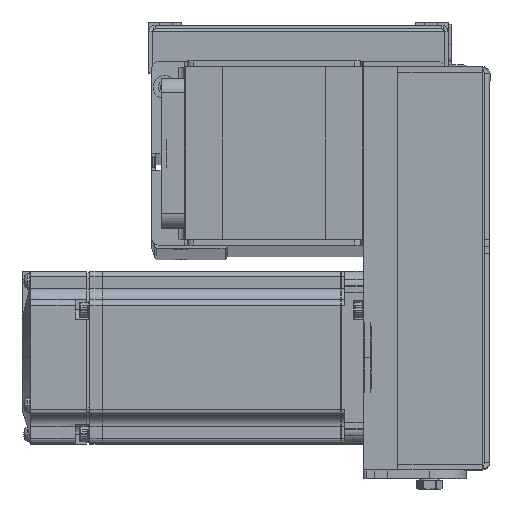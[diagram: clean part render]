
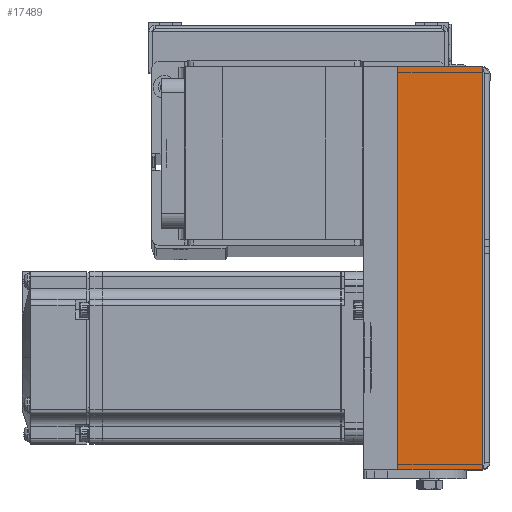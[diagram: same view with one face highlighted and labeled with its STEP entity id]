
A CAD part, top view. The second image highlights one B-rep face of the part: STEP entity #17489.
In plain terms, the highlighted planar face has unit normal (0, 0, 1).
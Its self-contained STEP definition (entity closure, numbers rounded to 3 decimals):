
#661 = DIRECTION ( 'NONE',  ( 0., 1., 0. ) ) ;
#1764 = EDGE_CURVE ( 'NONE', #44481, #27473, #37324, .T. ) ;
#3243 = EDGE_LOOP ( 'NONE', ( #32959, #25092, #5554, #36700 ) ) ;
#3722 = CARTESIAN_POINT ( 'NONE',  ( 70., -29.5, 31. ) ) ;
#4388 = EDGE_CURVE ( 'NONE', #11906, #27473, #45961, .T. ) ;
#5278 = PLANE ( 'NONE',  #52783 ) ;
#5554 = ORIENTED_EDGE ( 'NONE', *, *, #4388, .T. ) ;
#9821 = DIRECTION ( 'NONE',  ( 0., -1., 0. ) ) ;
#10850 = VECTOR ( 'NONE', #36240, 1000. ) ;
#11906 = VERTEX_POINT ( 'NONE', #24100 ) ;
#13843 = FACE_OUTER_BOUND ( 'NONE', #3243, .T. ) ;
#15177 = CARTESIAN_POINT ( 'NONE',  ( -70., -29.5, 31. ) ) ;
#17275 = CARTESIAN_POINT ( 'NONE',  ( -70., -29.5, 31. ) ) ;
#17327 = CARTESIAN_POINT ( 'NONE',  ( 0., -30., 31. ) ) ;
#17489 = ADVANCED_FACE ( 'NONE', ( #13843 ), #5278, .F. ) ;
#17597 = DIRECTION ( 'NONE',  ( 0., 0., -1. ) ) ;
#18197 = VECTOR ( 'NONE', #31344, 1000. ) ;
#18886 = VERTEX_POINT ( 'NONE', #21809 ) ;
#19292 = LINE ( 'NONE', #3722, #18197 ) ;
#20815 = CARTESIAN_POINT ( 'NONE',  ( 0., 0., 31. ) ) ;
#21809 = CARTESIAN_POINT ( 'NONE',  ( 70., -29.5, 31. ) ) ;
#24100 = CARTESIAN_POINT ( 'NONE',  ( 70., 0., 31. ) ) ;
#25092 = ORIENTED_EDGE ( 'NONE', *, *, #33172, .T. ) ;
#27473 = VERTEX_POINT ( 'NONE', #28547 ) ;
#28547 = CARTESIAN_POINT ( 'NONE',  ( -70., 0., 31. ) ) ;
#31344 = DIRECTION ( 'NONE',  ( 0., 1., 0. ) ) ;
#31726 = LINE ( 'NONE', #48033, #10850 ) ;
#32659 = VECTOR ( 'NONE', #47026, 1000. ) ;
#32959 = ORIENTED_EDGE ( 'NONE', *, *, #50888, .F. ) ;
#33172 = EDGE_CURVE ( 'NONE', #18886, #11906, #19292, .T. ) ;
#36240 = DIRECTION ( 'NONE',  ( -1., 0., 0. ) ) ;
#36700 = ORIENTED_EDGE ( 'NONE', *, *, #1764, .F. ) ;
#37324 = LINE ( 'NONE', #17275, #47712 ) ;
#44481 = VERTEX_POINT ( 'NONE', #15177 ) ;
#45961 = LINE ( 'NONE', #20815, #32659 ) ;
#47026 = DIRECTION ( 'NONE',  ( -1., 0., 0. ) ) ;
#47712 = VECTOR ( 'NONE', #661, 1000. ) ;
#48033 = CARTESIAN_POINT ( 'NONE',  ( -70., -29.5, 31. ) ) ;
#50888 = EDGE_CURVE ( 'NONE', #18886, #44481, #31726, .T. ) ;
#52783 = AXIS2_PLACEMENT_3D ( 'NONE', #17327, #17597, #9821 ) ;
